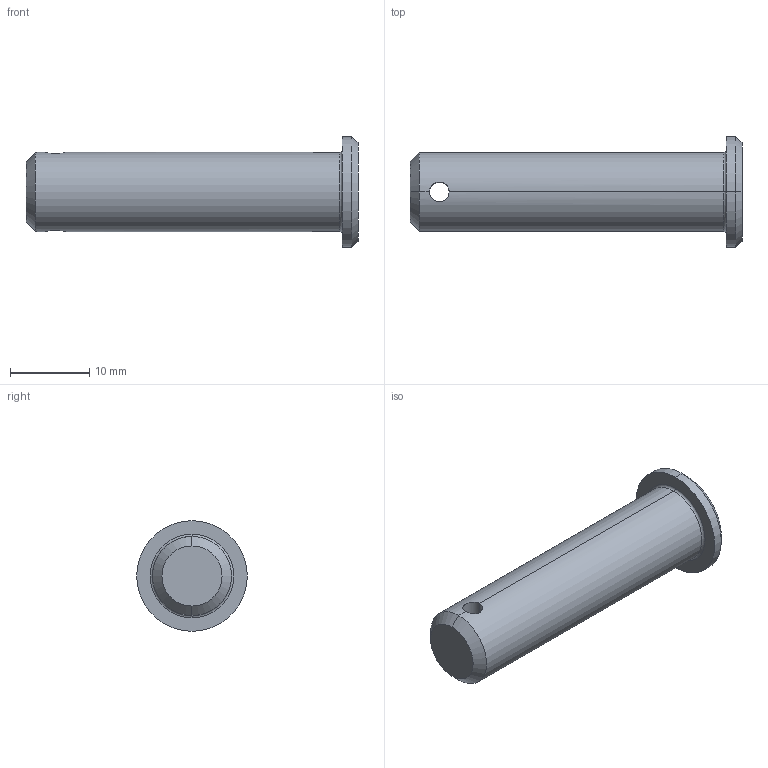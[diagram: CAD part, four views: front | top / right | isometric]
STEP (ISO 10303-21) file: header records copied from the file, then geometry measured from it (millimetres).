
FILE_DESCRIPTION (( 'STEP AP203' ), '1' );
FILE_NAME ('Wiberger-sms2360_10x40.step', '2012-10-09T08:57:03', ( 'Magnus' ), ( 'Wiberger' ), 'SwSTEP 2.0', 'SolidWorks 2011', '' );
FILE_SCHEMA (( 'CONFIG_CONTROL_DESIGN' ));
Length unit declared in the file: millimetre
Products named in the file (1): Wiberger-sms2360_10x40
Bounding box: 42 x 14 x 14 mm (x, y, z)
Volume: 3367 mm3; surface area: 1670.5 mm2
Topology: 1 solids, 1 shells, 15 faces, 32 edges, 18 vertices
Faces by surface type: cylinder 6, cone 4, plane 3, torus 2
Entity records: 555 total; most frequent: CARTESIAN_POINT 146, DIRECTION 76, ORIENTED_EDGE 64, EDGE_CURVE 32, AXIS2_PLACEMENT_3D 32, VERTEX_POINT 18, EDGE_LOOP 16, CIRCLE 16
